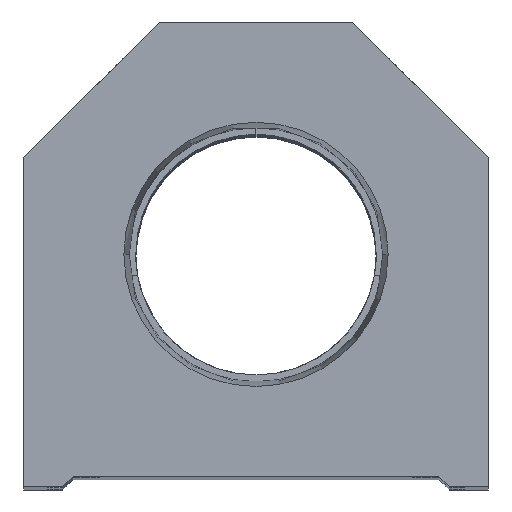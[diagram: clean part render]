
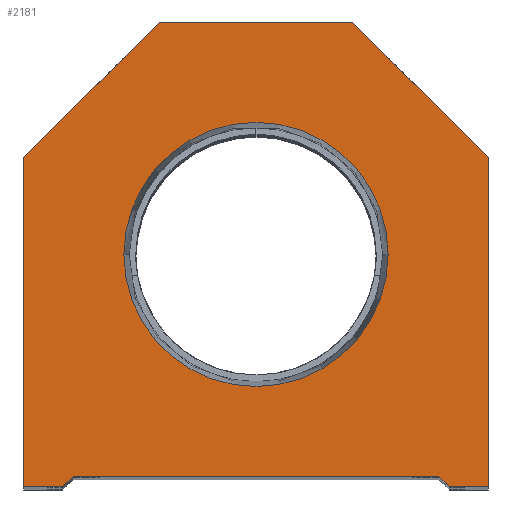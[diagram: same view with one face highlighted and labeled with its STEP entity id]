
A CAD part, top view. The second image highlights one B-rep face of the part: STEP entity #2181.
In plain terms, the highlighted planar face has unit normal (0, 0, 1).
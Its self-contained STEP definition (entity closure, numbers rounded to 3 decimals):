
#394 = ORIENTED_EDGE ( 'NONE', *, *, #23457, .T. ) ;
#569 = CARTESIAN_POINT ( 'NONE',  ( -17.5, 1., 0. ) ) ;
#611 = VERTEX_POINT ( 'NONE', #3450 ) ;
#726 = DIRECTION ( 'NONE',  ( 1., 0., 0. ) ) ;
#760 = CARTESIAN_POINT ( 'NONE',  ( -22.25, 0., 0. ) ) ;
#1280 = ORIENTED_EDGE ( 'NONE', *, *, #20514, .T. ) ;
#1368 = EDGE_CURVE ( 'NONE', #15172, #11978, #17082, .T. ) ;
#1721 = ORIENTED_EDGE ( 'NONE', *, *, #1368, .F. ) ;
#2181 = ADVANCED_FACE ( 'NONE', ( #14447, #8872 ), #8760, .T. ) ;
#2344 = VECTOR ( 'NONE', #4839, 1000. ) ;
#2461 = EDGE_CURVE ( 'NONE', #22983, #10691, #19521, .T. ) ;
#2782 = CARTESIAN_POINT ( 'NONE',  ( -22.25, 0., 0. ) ) ;
#2866 = CARTESIAN_POINT ( 'NONE',  ( -17.5, 1., 0. ) ) ;
#3304 = DIRECTION ( 'NONE',  ( -0.707, -0.707, 0. ) ) ;
#3355 = CARTESIAN_POINT ( 'NONE',  ( 0., 0., 0. ) ) ;
#3405 = EDGE_CURVE ( 'NONE', #13834, #5284, #12137, .T. ) ;
#3450 = CARTESIAN_POINT ( 'NONE',  ( -22.25, 31.5, 0. ) ) ;
#3501 = ORIENTED_EDGE ( 'NONE', *, *, #5512, .T. ) ;
#3577 = DIRECTION ( 'NONE',  ( 0.707, -0.707, 0. ) ) ;
#3988 = CARTESIAN_POINT ( 'NONE',  ( 9.25, 44.5, 0. ) ) ;
#4061 = DIRECTION ( 'NONE',  ( 1., 0., 0. ) ) ;
#4094 = CARTESIAN_POINT ( 'NONE',  ( -12.647, 22.25, 0. ) ) ;
#4656 = EDGE_CURVE ( 'NONE', #6315, #611, #12324, .T. ) ;
#4685 = ORIENTED_EDGE ( 'NONE', *, *, #18704, .F. ) ;
#4741 = DIRECTION ( 'NONE',  ( 0., -1., 0. ) ) ;
#4839 = DIRECTION ( 'NONE',  ( 1., 0., 0. ) ) ;
#5284 = VERTEX_POINT ( 'NONE', #5562 ) ;
#5399 = DIRECTION ( 'NONE',  ( 0.707, 0.707, 0. ) ) ;
#5501 = VERTEX_POINT ( 'NONE', #15128 ) ;
#5512 = EDGE_CURVE ( 'NONE', #5284, #22983, #5899, .T. ) ;
#5562 = CARTESIAN_POINT ( 'NONE',  ( -18.5, 0., 0. ) ) ;
#5859 = ORIENTED_EDGE ( 'NONE', *, *, #8736, .T. ) ;
#5899 = LINE ( 'NONE', #21955, #14664 ) ;
#6315 = VERTEX_POINT ( 'NONE', #14795 ) ;
#6371 = EDGE_LOOP ( 'NONE', ( #4685, #1721 ) ) ;
#6707 = VECTOR ( 'NONE', #3304, 1000. ) ;
#7521 = LINE ( 'NONE', #22260, #11088 ) ;
#7681 = ORIENTED_EDGE ( 'NONE', *, *, #8419, .T. ) ;
#7969 = CARTESIAN_POINT ( 'NONE',  ( 17.5, 0., 0. ) ) ;
#8419 = EDGE_CURVE ( 'NONE', #5501, #12680, #12600, .T. ) ;
#8697 = CARTESIAN_POINT ( 'NONE',  ( 22.25, 31.5, 0. ) ) ;
#8736 = EDGE_CURVE ( 'NONE', #12680, #14979, #21594, .T. ) ;
#8746 = EDGE_LOOP ( 'NONE', ( #10428, #3501, #11402, #19547, #394, #7681, #5859, #13439, #17599, #1280 ) ) ;
#8750 = DIRECTION ( 'NONE',  ( 0., 1., 0. ) ) ;
#8760 = PLANE ( 'NONE',  #18657 ) ;
#8872 = FACE_OUTER_BOUND ( 'NONE', #8746, .T. ) ;
#9519 = CARTESIAN_POINT ( 'NONE',  ( 17.5, 1., 0. ) ) ;
#10428 = ORIENTED_EDGE ( 'NONE', *, *, #3405, .T. ) ;
#10691 = VERTEX_POINT ( 'NONE', #9519 ) ;
#11088 = VECTOR ( 'NONE', #3577, 1000. ) ;
#11156 = AXIS2_PLACEMENT_3D ( 'NONE', #15377, #15151, #4061 ) ;
#11193 = LINE ( 'NONE', #3988, #21765 ) ;
#11402 = ORIENTED_EDGE ( 'NONE', *, *, #2461, .T. ) ;
#11497 = LINE ( 'NONE', #7969, #22556 ) ;
#11978 = VERTEX_POINT ( 'NONE', #19196 ) ;
#12137 = LINE ( 'NONE', #21299, #2344 ) ;
#12324 = LINE ( 'NONE', #17687, #6707 ) ;
#12600 = LINE ( 'NONE', #17954, #15039 ) ;
#12680 = VERTEX_POINT ( 'NONE', #15393 ) ;
#13086 = CIRCLE ( 'NONE', #11156, 12.647 ) ;
#13386 = EDGE_CURVE ( 'NONE', #14979, #6315, #11193, .T. ) ;
#13439 = ORIENTED_EDGE ( 'NONE', *, *, #13386, .T. ) ;
#13806 = DIRECTION ( 'NONE',  ( 1., 0., 0. ) ) ;
#13834 = VERTEX_POINT ( 'NONE', #760 ) ;
#14197 = DIRECTION ( 'NONE',  ( 0., 0., 1. ) ) ;
#14447 = FACE_BOUND ( 'NONE', #6371, .T. ) ;
#14664 = VECTOR ( 'NONE', #5399, 1000. ) ;
#14795 = CARTESIAN_POINT ( 'NONE',  ( -9.25, 44.5, 0. ) ) ;
#14796 = CARTESIAN_POINT ( 'NONE',  ( 0., 22.25, 0. ) ) ;
#14979 = VERTEX_POINT ( 'NONE', #21447 ) ;
#15039 = VECTOR ( 'NONE', #8750, 1000. ) ;
#15128 = CARTESIAN_POINT ( 'NONE',  ( 22.25, 0., 0. ) ) ;
#15151 = DIRECTION ( 'NONE',  ( 0., 0., 1. ) ) ;
#15172 = VERTEX_POINT ( 'NONE', #4094 ) ;
#15377 = CARTESIAN_POINT ( 'NONE',  ( 0., 22.25, 0. ) ) ;
#15393 = CARTESIAN_POINT ( 'NONE',  ( 22.25, 31.5, 0. ) ) ;
#16133 = EDGE_CURVE ( 'NONE', #10691, #22328, #7521, .T. ) ;
#16610 = DIRECTION ( 'NONE',  ( 1., 0., 0. ) ) ;
#16776 = DIRECTION ( 'NONE',  ( -1., 0., 0. ) ) ;
#17082 = CIRCLE ( 'NONE', #17476, 12.647 ) ;
#17476 = AXIS2_PLACEMENT_3D ( 'NONE', #14796, #18795, #16610 ) ;
#17599 = ORIENTED_EDGE ( 'NONE', *, *, #4656, .T. ) ;
#17687 = CARTESIAN_POINT ( 'NONE',  ( -22.25, 31.5, 0. ) ) ;
#17954 = CARTESIAN_POINT ( 'NONE',  ( 22.25, 0., 0. ) ) ;
#18120 = DIRECTION ( 'NONE',  ( -0.707, 0.707, 0. ) ) ;
#18657 = AXIS2_PLACEMENT_3D ( 'NONE', #3355, #14197, #20001 ) ;
#18704 = EDGE_CURVE ( 'NONE', #11978, #15172, #13086, .T. ) ;
#18795 = DIRECTION ( 'NONE',  ( 0., 0., 1. ) ) ;
#19196 = CARTESIAN_POINT ( 'NONE',  ( 12.647, 22.25, 0. ) ) ;
#19521 = LINE ( 'NONE', #2866, #20942 ) ;
#19547 = ORIENTED_EDGE ( 'NONE', *, *, #16133, .T. ) ;
#20001 = DIRECTION ( 'NONE',  ( 1., 0., 0. ) ) ;
#20514 = EDGE_CURVE ( 'NONE', #611, #13834, #22664, .T. ) ;
#20942 = VECTOR ( 'NONE', #13806, 1000. ) ;
#21299 = CARTESIAN_POINT ( 'NONE',  ( -17.5, 0., 0. ) ) ;
#21447 = CARTESIAN_POINT ( 'NONE',  ( 9.25, 44.5, 0. ) ) ;
#21594 = LINE ( 'NONE', #8697, #21944 ) ;
#21765 = VECTOR ( 'NONE', #16776, 1000. ) ;
#21881 = CARTESIAN_POINT ( 'NONE',  ( 18.5, 0., 0. ) ) ;
#21944 = VECTOR ( 'NONE', #18120, 1000. ) ;
#21955 = CARTESIAN_POINT ( 'NONE',  ( -9.25, 9.25, 0. ) ) ;
#22260 = CARTESIAN_POINT ( 'NONE',  ( 9.25, 9.25, 0. ) ) ;
#22328 = VERTEX_POINT ( 'NONE', #21881 ) ;
#22556 = VECTOR ( 'NONE', #726, 1000. ) ;
#22664 = LINE ( 'NONE', #2782, #22837 ) ;
#22837 = VECTOR ( 'NONE', #4741, 1000. ) ;
#22983 = VERTEX_POINT ( 'NONE', #569 ) ;
#23457 = EDGE_CURVE ( 'NONE', #22328, #5501, #11497, .T. ) ;
